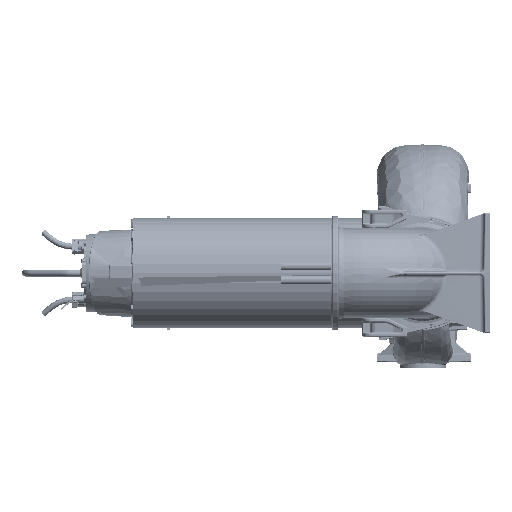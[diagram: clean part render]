
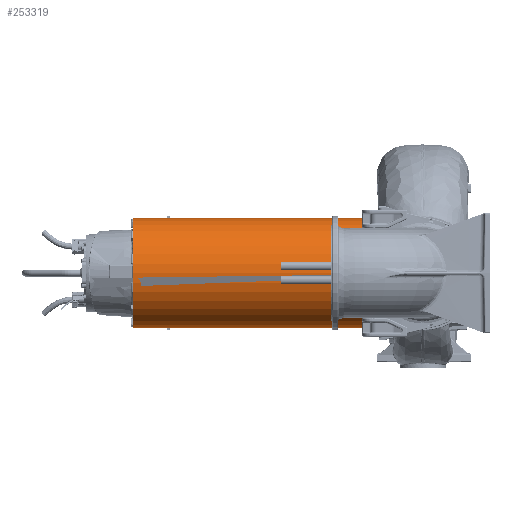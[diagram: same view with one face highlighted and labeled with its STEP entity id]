
A CAD part, left-side view. The second image highlights one B-rep face of the part: STEP entity #253319.
In plain terms, the highlighted cylindrical face has radius 391.5 mm (diameter 783 mm), a partial arc.
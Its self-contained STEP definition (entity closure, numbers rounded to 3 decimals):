
#1142 = DIRECTION ( 'NONE',  ( 0., 1., 0. ) ) ;
#2365 = DIRECTION ( 'NONE',  ( 0., 1., 0. ) ) ;
#2487 = CARTESIAN_POINT ( 'NONE',  ( 1125., 2529.349, 391.5 ) ) ;
#16321 = CARTESIAN_POINT ( 'NONE',  ( 1115.5, 2144.485, 391.385 ) ) ;
#16738 = CARTESIAN_POINT ( 'NONE',  ( 1121.833, 2129.859, -391.5 ) ) ;
#17132 = VECTOR ( 'NONE', #331664, 1000. ) ;
#20802 = VECTOR ( 'NONE', #276378, 1000. ) ;
#21236 = EDGE_LOOP ( 'NONE', ( #217000, #163155, #141896, #149998, #319494, #268163, #143169, #118733, #56238, #271315, #395339, #66414 ) ) ;
#24208 =( BOUNDED_CURVE ( )  B_SPLINE_CURVE ( 3, ( #49265, #79960, #324519, #141349 ),
 .UNSPECIFIED., .F., .T. ) 
 B_SPLINE_CURVE_WITH_KNOTS ( ( 4, 4 ),
 ( 4.688, 4.712 ),
 .UNSPECIFIED. ) 
 CURVE ( )  GEOMETRIC_REPRESENTATION_ITEM ( )  RATIONAL_B_SPLINE_CURVE ( ( 1., 1., 1., 1. ) ) 
 REPRESENTATION_ITEM ( '' )  );
#40039 = VERTEX_POINT ( 'NONE', #367132 ) ;
#43332 = CARTESIAN_POINT ( 'NONE',  ( 1115.5, 2144.485, -391.385 ) ) ;
#46786 = EDGE_CURVE ( 'NONE', #152043, #365719, #346005, .T. ) ;
#49265 = CARTESIAN_POINT ( 'NONE',  ( 1115.5, 2144.485, 391.385 ) ) ;
#54007 = VERTEX_POINT ( 'NONE', #258667 ) ;
#55721 = VERTEX_POINT ( 'NONE', #190111 ) ;
#56037 = FACE_OUTER_BOUND ( 'NONE', #21236, .T. ) ;
#56238 = ORIENTED_EDGE ( 'NONE', *, *, #392342, .F. ) ;
#56560 = EDGE_CURVE ( 'NONE', #144163, #277587, #84922, .T. ) ;
#66414 = ORIENTED_EDGE ( 'NONE', *, *, #201548, .F. ) ;
#69535 = DIRECTION ( 'NONE',  ( 0., 1., 0. ) ) ;
#74430 = EDGE_CURVE ( 'NONE', #55721, #144163, #126749, .T. ) ;
#78248 = CARTESIAN_POINT ( 'NONE',  ( 1118.666, 2131.687, -391.462 ) ) ;
#79851 =( BOUNDED_CURVE ( )  B_SPLINE_CURVE ( 3, ( #286877, #103809, #317652, #134482 ),
 .UNSPECIFIED., .F., .F. ) 
 B_SPLINE_CURVE_WITH_KNOTS ( ( 4, 4 ),
 ( 4.688, 4.712 ),
 .UNSPECIFIED. ) 
 CURVE ( )  GEOMETRIC_REPRESENTATION_ITEM ( )  RATIONAL_B_SPLINE_CURVE ( ( 1., 1., 1., 1. ) ) 
 REPRESENTATION_ITEM ( '' )  );
#79960 = CARTESIAN_POINT ( 'NONE',  ( 1118.666, 2146.313, 391.462 ) ) ;
#84922 = CIRCLE ( 'NONE', #308628, 391.5 ) ;
#95048 = CARTESIAN_POINT ( 'NONE',  ( 1125., 705., -391.5 ) ) ;
#96233 = EDGE_CURVE ( 'NONE', #365719, #40039, #142400, .T. ) ;
#98386 = LINE ( 'NONE', #117773, #17132 ) ;
#98971 = VECTOR ( 'NONE', #102234, 1000. ) ;
#102234 = DIRECTION ( 'NONE',  ( 0., 1., 0. ) ) ;
#103809 = CARTESIAN_POINT ( 'NONE',  ( 1118.666, 2146.313, -391.462 ) ) ;
#113535 = EDGE_CURVE ( 'NONE', #382022, #277587, #388525, .T. ) ;
#115045 = EDGE_CURVE ( 'NONE', #152650, #54007, #374174, .T. ) ;
#117224 = CARTESIAN_POINT ( 'NONE',  ( 1125., 2529.349, -391.5 ) ) ;
#117773 = CARTESIAN_POINT ( 'NONE',  ( 1125., 2529.349, -391.5 ) ) ;
#118733 = ORIENTED_EDGE ( 'NONE', *, *, #74430, .F. ) ;
#121794 = CARTESIAN_POINT ( 'NONE',  ( 1125., 2128.03, 391.5 ) ) ;
#126749 = LINE ( 'NONE', #117224, #289379 ) ;
#134272 = VECTOR ( 'NONE', #2365, 1000. ) ;
#134482 = CARTESIAN_POINT ( 'NONE',  ( 1125., 2149.97, -391.5 ) ) ;
#141349 = CARTESIAN_POINT ( 'NONE',  ( 1125., 2149.97, 391.5 ) ) ;
#141896 = ORIENTED_EDGE ( 'NONE', *, *, #96233, .T. ) ;
#142400 =( BOUNDED_CURVE ( )  B_SPLINE_CURVE ( 3, ( #121794, #304918, #366444, #183383 ),
 .UNSPECIFIED., .F., .F. ) 
 B_SPLINE_CURVE_WITH_KNOTS ( ( 4, 4 ),
 ( 4.712, 4.737 ),
 .UNSPECIFIED. ) 
 CURVE ( )  GEOMETRIC_REPRESENTATION_ITEM ( )  RATIONAL_B_SPLINE_CURVE ( ( 1., 1., 1., 1. ) ) 
 REPRESENTATION_ITEM ( '' )  );
#143169 = ORIENTED_EDGE ( 'NONE', *, *, #56560, .F. ) ;
#144163 = VERTEX_POINT ( 'NONE', #329997 ) ;
#148736 = CARTESIAN_POINT ( 'NONE',  ( 1125., 705., 391.5 ) ) ;
#149998 = ORIENTED_EDGE ( 'NONE', *, *, #174877, .T. ) ;
#152043 = VERTEX_POINT ( 'NONE', #148736 ) ;
#152070 = CARTESIAN_POINT ( 'NONE',  ( 1125., 2389., 391.5 ) ) ;
#152650 = VERTEX_POINT ( 'NONE', #331476 ) ;
#153745 = EDGE_CURVE ( 'NONE', #240474, #382022, #24208, .T. ) ;
#154001 = VECTOR ( 'NONE', #392452, 1000. ) ;
#163014 = DIRECTION ( 'NONE',  ( 0., 0., -1. ) ) ;
#163155 = ORIENTED_EDGE ( 'NONE', *, *, #46786, .T. ) ;
#164227 = CARTESIAN_POINT ( 'NONE',  ( 1125., 705., 0. ) ) ;
#174877 = EDGE_CURVE ( 'NONE', #40039, #240474, #190022, .T. ) ;
#180293 = CYLINDRICAL_SURFACE ( 'NONE', #348584, 391.5 ) ;
#183383 = CARTESIAN_POINT ( 'NONE',  ( 1115.5, 2133.515, 391.385 ) ) ;
#184260 = CARTESIAN_POINT ( 'NONE',  ( 1125., 2389., 0. ) ) ;
#190022 = LINE ( 'NONE', #345549, #98971 ) ;
#190111 = CARTESIAN_POINT ( 'NONE',  ( 1125., 2149.97, -391.5 ) ) ;
#195106 = DIRECTION ( 'NONE',  ( 0., 0., -1. ) ) ;
#201548 = EDGE_CURVE ( 'NONE', #288091, #152650, #98386, .T. ) ;
#214938 = DIRECTION ( 'NONE',  ( 0., 0., -1. ) ) ;
#217000 = ORIENTED_EDGE ( 'NONE', *, *, #240562, .T. ) ;
#219273 = CARTESIAN_POINT ( 'NONE',  ( 1125., 2529.349, 0. ) ) ;
#230651 = CARTESIAN_POINT ( 'NONE',  ( 1125., 2128.03, -391.5 ) ) ;
#240474 = VERTEX_POINT ( 'NONE', #16321 ) ;
#240562 = EDGE_CURVE ( 'NONE', #288091, #152043, #368059, .T. ) ;
#245537 = CARTESIAN_POINT ( 'NONE',  ( 1115.5, 2529.349, -391.385 ) ) ;
#253319 = ADVANCED_FACE ( 'NONE', ( #56037 ), #180293, .T. ) ;
#257622 = CARTESIAN_POINT ( 'NONE',  ( 1125., 2128.03, 391.5 ) ) ;
#258667 = CARTESIAN_POINT ( 'NONE',  ( 1115.5, 2133.515, -391.385 ) ) ;
#259823 = EDGE_CURVE ( 'NONE', #54007, #263453, #378336, .T. ) ;
#263453 = VERTEX_POINT ( 'NONE', #43332 ) ;
#268163 = ORIENTED_EDGE ( 'NONE', *, *, #113535, .T. ) ;
#271315 = ORIENTED_EDGE ( 'NONE', *, *, #259823, .F. ) ;
#276378 = DIRECTION ( 'NONE',  ( 0., 1., 0. ) ) ;
#277587 = VERTEX_POINT ( 'NONE', #152070 ) ;
#286877 = CARTESIAN_POINT ( 'NONE',  ( 1115.5, 2144.485, -391.385 ) ) ;
#288091 = VERTEX_POINT ( 'NONE', #95048 ) ;
#289379 = VECTOR ( 'NONE', #331107, 1000. ) ;
#292026 = CARTESIAN_POINT ( 'NONE',  ( 1115.5, 2133.515, -391.385 ) ) ;
#304918 = CARTESIAN_POINT ( 'NONE',  ( 1121.833, 2129.859, 391.5 ) ) ;
#306074 = CARTESIAN_POINT ( 'NONE',  ( 1125., 2149.97, 391.5 ) ) ;
#308628 = AXIS2_PLACEMENT_3D ( 'NONE', #184260, #1142, #214938 ) ;
#317652 = CARTESIAN_POINT ( 'NONE',  ( 1121.833, 2148.141, -391.5 ) ) ;
#319494 = ORIENTED_EDGE ( 'NONE', *, *, #153745, .T. ) ;
#324519 = CARTESIAN_POINT ( 'NONE',  ( 1121.833, 2148.141, 391.5 ) ) ;
#329997 = CARTESIAN_POINT ( 'NONE',  ( 1125., 2389., -391.5 ) ) ;
#331107 = DIRECTION ( 'NONE',  ( 0., 1., 0. ) ) ;
#331476 = CARTESIAN_POINT ( 'NONE',  ( 1125., 2128.03, -391.5 ) ) ;
#331664 = DIRECTION ( 'NONE',  ( 0., 1., 0. ) ) ;
#345549 = CARTESIAN_POINT ( 'NONE',  ( 1115.5, 2529.349, 391.385 ) ) ;
#346005 = LINE ( 'NONE', #2487, #20802 ) ;
#348584 = AXIS2_PLACEMENT_3D ( 'NONE', #219273, #69535, #163014 ) ;
#362943 = CARTESIAN_POINT ( 'NONE',  ( 1125., 2529.349, 391.5 ) ) ;
#365719 = VERTEX_POINT ( 'NONE', #257622 ) ;
#366444 = CARTESIAN_POINT ( 'NONE',  ( 1118.666, 2131.687, 391.462 ) ) ;
#367132 = CARTESIAN_POINT ( 'NONE',  ( 1115.5, 2133.515, 391.385 ) ) ;
#368059 = CIRCLE ( 'NONE', #387214, 391.5 ) ;
#374174 =( BOUNDED_CURVE ( )  B_SPLINE_CURVE ( 3, ( #230651, #16738, #78248, #292026 ),
 .UNSPECIFIED., .F., .F. ) 
 B_SPLINE_CURVE_WITH_KNOTS ( ( 4, 4 ),
 ( 4.712, 4.737 ),
 .UNSPECIFIED. ) 
 CURVE ( )  GEOMETRIC_REPRESENTATION_ITEM ( )  RATIONAL_B_SPLINE_CURVE ( ( 1., 1., 1., 1. ) ) 
 REPRESENTATION_ITEM ( '' )  );
#378153 = DIRECTION ( 'NONE',  ( 0., 1., 0. ) ) ;
#378336 = LINE ( 'NONE', #245537, #134272 ) ;
#382022 = VERTEX_POINT ( 'NONE', #306074 ) ;
#387214 = AXIS2_PLACEMENT_3D ( 'NONE', #164227, #378153, #195106 ) ;
#388525 = LINE ( 'NONE', #362943, #154001 ) ;
#392342 = EDGE_CURVE ( 'NONE', #263453, #55721, #79851, .T. ) ;
#392452 = DIRECTION ( 'NONE',  ( 0., 1., 0. ) ) ;
#395339 = ORIENTED_EDGE ( 'NONE', *, *, #115045, .F. ) ;
